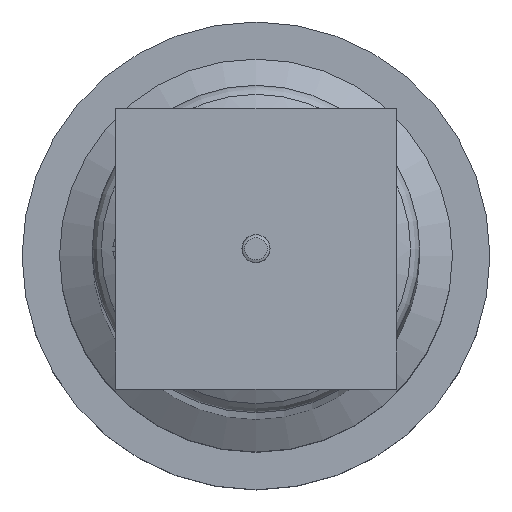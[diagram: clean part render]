
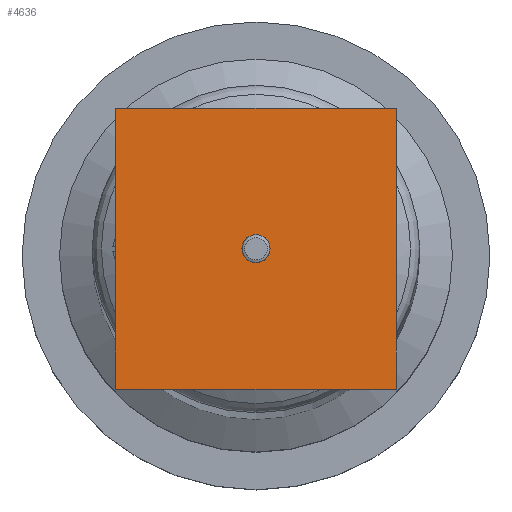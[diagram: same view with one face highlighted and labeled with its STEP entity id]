
A CAD part, top view. The second image highlights one B-rep face of the part: STEP entity #4636.
In plain terms, the highlighted planar face has unit normal (0, 0, -1).
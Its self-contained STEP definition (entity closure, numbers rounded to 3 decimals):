
#144 = VECTOR ( 'NONE', #3411, 1000. ) ;
#275 = FACE_OUTER_BOUND ( 'NONE', #4673, .T. ) ;
#326 = VECTOR ( 'NONE', #5370, 1000. ) ;
#338 = VERTEX_POINT ( 'NONE', #2024 ) ;
#453 = VECTOR ( 'NONE', #832, 1000. ) ;
#569 = DIRECTION ( 'NONE',  ( -1., 0., 0. ) ) ;
#666 = LINE ( 'NONE', #1208, #5564 ) ;
#832 = DIRECTION ( 'NONE',  ( 0., -1., 0. ) ) ;
#1191 = EDGE_CURVE ( 'NONE', #6342, #338, #1648, .T. ) ;
#1208 = CARTESIAN_POINT ( 'NONE',  ( 15., -15., 465. ) ) ;
#1230 = DIRECTION ( 'NONE',  ( -1., 0., 0. ) ) ;
#1261 = CARTESIAN_POINT ( 'NONE',  ( 15., 15., 465. ) ) ;
#1648 = LINE ( 'NONE', #1261, #453 ) ;
#1757 = EDGE_CURVE ( 'NONE', #3255, #4634, #3165, .T. ) ;
#2024 = CARTESIAN_POINT ( 'NONE',  ( 15., -15., 465. ) ) ;
#2569 = ORIENTED_EDGE ( 'NONE', *, *, #1191, .T. ) ;
#2755 = AXIS2_PLACEMENT_3D ( 'NONE', #4068, #6110, #569 ) ;
#2801 = LINE ( 'NONE', #5937, #144 ) ;
#3144 = ORIENTED_EDGE ( 'NONE', *, *, #4157, .T. ) ;
#3165 = LINE ( 'NONE', #3304, #326 ) ;
#3255 = VERTEX_POINT ( 'NONE', #3343 ) ;
#3304 = CARTESIAN_POINT ( 'NONE',  ( -15., 15., 465. ) ) ;
#3343 = CARTESIAN_POINT ( 'NONE',  ( -15., -15., 465. ) ) ;
#3411 = DIRECTION ( 'NONE',  ( 1., 0., 0. ) ) ;
#3587 = CARTESIAN_POINT ( 'NONE',  ( -15., 15., 465. ) ) ;
#4068 = CARTESIAN_POINT ( 'NONE',  ( 0., 0., 465. ) ) ;
#4157 = EDGE_CURVE ( 'NONE', #4634, #6342, #2801, .T. ) ;
#4634 = VERTEX_POINT ( 'NONE', #3587 ) ;
#4636 = ADVANCED_FACE ( 'NONE', ( #275 ), #5066, .T. ) ;
#4673 = EDGE_LOOP ( 'NONE', ( #2569, #5711, #5832, #3144 ) ) ;
#5066 = PLANE ( 'NONE',  #2755 ) ;
#5370 = DIRECTION ( 'NONE',  ( 0., 1., 0. ) ) ;
#5494 = CARTESIAN_POINT ( 'NONE',  ( 15., 15., 465. ) ) ;
#5564 = VECTOR ( 'NONE', #1230, 1000. ) ;
#5696 = EDGE_CURVE ( 'NONE', #338, #3255, #666, .T. ) ;
#5711 = ORIENTED_EDGE ( 'NONE', *, *, #5696, .T. ) ;
#5832 = ORIENTED_EDGE ( 'NONE', *, *, #1757, .T. ) ;
#5937 = CARTESIAN_POINT ( 'NONE',  ( 15., 15., 465. ) ) ;
#6110 = DIRECTION ( 'NONE',  ( 0., 0., -1. ) ) ;
#6342 = VERTEX_POINT ( 'NONE', #5494 ) ;
